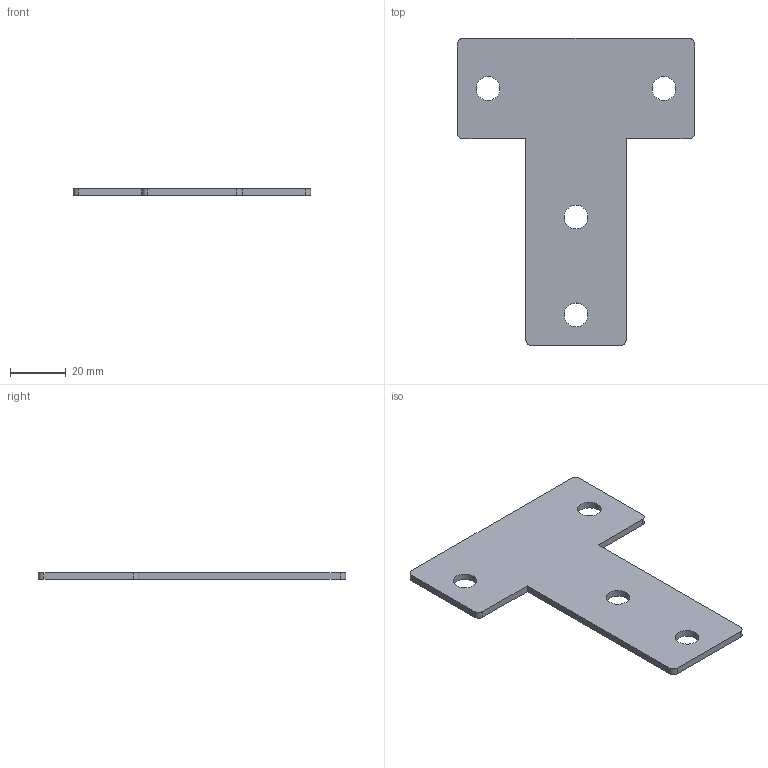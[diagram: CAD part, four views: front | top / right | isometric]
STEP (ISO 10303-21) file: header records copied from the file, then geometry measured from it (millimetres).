
FILE_DESCRIPTION (( 'STEP AP203' ), '1' );
FILE_NAME ('110-40Ｔ型连接板.STEP', '2015-07-09T08:41:26', ( '' ), ( '' ), 'SwSTEP 2.0', 'SolidWorks 2013', '' );
FILE_SCHEMA (( 'CONFIG_CONTROL_DESIGN' ));
Length unit declared in the file: millimetre
Products named in the file (1): 110-40Ｔ型连接板
Bounding box: 85 x 110 x 2.5 mm (x, y, z)
Volume: 13729.7 mm3; surface area: 12212.9 mm2
Topology: 1 solids, 1 shells, 24 faces, 66 edges, 44 vertices
Faces by surface type: cylinder 14, plane 10
Entity records: 871 total; most frequent: DIRECTION 144, CARTESIAN_POINT 135, ORIENTED_EDGE 132, EDGE_CURVE 66, AXIS2_PLACEMENT_3D 53, VERTEX_POINT 44, LINE 38, VECTOR 38
